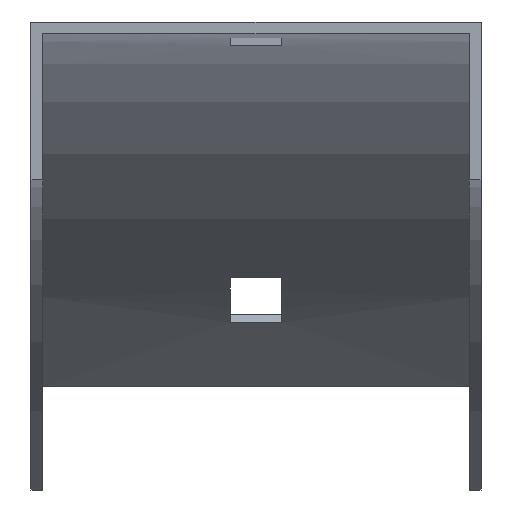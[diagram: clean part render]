
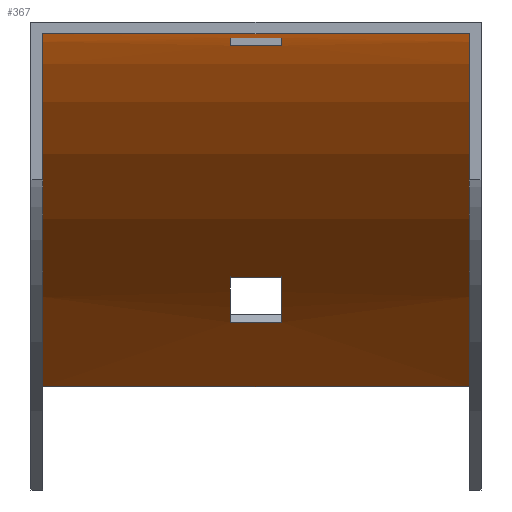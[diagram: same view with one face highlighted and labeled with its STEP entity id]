
A CAD part, top view. The second image highlights one B-rep face of the part: STEP entity #367.
In plain terms, the highlighted cylindrical face has radius 152 mm (diameter 304 mm), a partial arc.
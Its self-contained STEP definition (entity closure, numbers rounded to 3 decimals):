
#3 = DIRECTION ( 'NONE',  ( 1., 0., 0. ) ) ;
#4 = DIRECTION ( 'NONE',  ( 0., 0., 1. ) ) ;
#16 = DIRECTION ( 'NONE',  ( 1., 0., 0. ) ) ;
#39 = EDGE_LOOP ( 'NONE', ( #505, #255, #395, #483 ) ) ;
#40 = AXIS2_PLACEMENT_3D ( 'NONE', #518, #119, #142 ) ;
#42 = VERTEX_POINT ( 'NONE', #543 ) ;
#62 = EDGE_LOOP ( 'NONE', ( #166, #484, #337, #120 ) ) ;
#65 = EDGE_LOOP ( 'NONE', ( #403, #528, #312, #76 ) ) ;
#67 = CIRCLE ( 'NONE', #299, 152. ) ;
#76 = ORIENTED_EDGE ( 'NONE', *, *, #521, .T. ) ;
#82 = AXIS2_PLACEMENT_3D ( 'NONE', #242, #158, #149 ) ;
#86 = CARTESIAN_POINT ( 'NONE',  ( 28.5, -32.201, -91.6 ) ) ;
#92 = VECTOR ( 'NONE', #457, 1000. ) ;
#93 = LINE ( 'NONE', #329, #520 ) ;
#111 = VECTOR ( 'NONE', #3, 1000. ) ;
#119 = DIRECTION ( 'NONE',  ( 1., 0., 0. ) ) ;
#120 = ORIENTED_EDGE ( 'NONE', *, *, #293, .F. ) ;
#121 = LINE ( 'NONE', #86, #92 ) ;
#126 = EDGE_CURVE ( 'NONE', #463, #332, #121, .T. ) ;
#134 = CIRCLE ( 'NONE', #474, 152. ) ;
#137 = DIRECTION ( 'NONE',  ( 0., 0., 1. ) ) ;
#138 = VERTEX_POINT ( 'NONE', #178 ) ;
#140 = CARTESIAN_POINT ( 'NONE',  ( 27., -46.02, -107.48 ) ) ;
#142 = DIRECTION ( 'NONE',  ( 0., 0., -1. ) ) ;
#149 = DIRECTION ( 'NONE',  ( 0., 0., 1. ) ) ;
#152 = EDGE_CURVE ( 'NONE', #531, #169, #326, .T. ) ;
#158 = DIRECTION ( 'NONE',  ( -1., 0., 0. ) ) ;
#166 = ORIENTED_EDGE ( 'NONE', *, *, #507, .F. ) ;
#167 = LINE ( 'NONE', #602, #306 ) ;
#169 = VERTEX_POINT ( 'NONE', #170 ) ;
#170 = CARTESIAN_POINT ( 'NONE',  ( 3.25, -1.974, -12. ) ) ;
#178 = CARTESIAN_POINT ( 'NONE',  ( 27., -1.5, 0. ) ) ;
#180 = CARTESIAN_POINT ( 'NONE',  ( -27., -1.5, 0. ) ) ;
#183 = EDGE_CURVE ( 'NONE', #138, #263, #450, .T. ) ;
#192 = VECTOR ( 'NONE', #327, 1000. ) ;
#204 = EDGE_CURVE ( 'NONE', #592, #42, #167, .T. ) ;
#206 = CARTESIAN_POINT ( 'NONE',  ( -3.25, -32.201, -91.6 ) ) ;
#210 = CARTESIAN_POINT ( 'NONE',  ( 3.25, -2.958, -21. ) ) ;
#218 = DIRECTION ( 'NONE',  ( 0., 0., -1. ) ) ;
#224 = CIRCLE ( 'NONE', #40, 152. ) ;
#233 = EDGE_CURVE ( 'NONE', #456, #492, #423, .T. ) ;
#235 = CARTESIAN_POINT ( 'NONE',  ( 28.5, -2.958, -21. ) ) ;
#236 = CIRCLE ( 'NONE', #373, 152. ) ;
#242 = CARTESIAN_POINT ( 'NONE',  ( 28.5, -153.5, 0. ) ) ;
#255 = ORIENTED_EDGE ( 'NONE', *, *, #233, .F. ) ;
#260 = DIRECTION ( 'NONE',  ( -1., 0., 0. ) ) ;
#263 = VERTEX_POINT ( 'NONE', #180 ) ;
#277 = EDGE_CURVE ( 'NONE', #169, #434, #93, .T. ) ;
#284 = FACE_OUTER_BOUND ( 'NONE', #39, .T. ) ;
#292 = FACE_BOUND ( 'NONE', #65, .T. ) ;
#293 = EDGE_CURVE ( 'NONE', #301, #531, #374, .T. ) ;
#296 = CARTESIAN_POINT ( 'NONE',  ( 27., -46.02, -107.48 ) ) ;
#299 = AXIS2_PLACEMENT_3D ( 'NONE', #371, #260, #137 ) ;
#301 = VERTEX_POINT ( 'NONE', #567 ) ;
#306 = VECTOR ( 'NONE', #361, 1000. ) ;
#312 = ORIENTED_EDGE ( 'NONE', *, *, #126, .T. ) ;
#325 = FACE_BOUND ( 'NONE', #62, .T. ) ;
#326 = CIRCLE ( 'NONE', #404, 152. ) ;
#327 = DIRECTION ( 'NONE',  ( -1., 0., 0. ) ) ;
#329 = CARTESIAN_POINT ( 'NONE',  ( 28.5, -1.974, -12. ) ) ;
#332 = VERTEX_POINT ( 'NONE', #562 ) ;
#337 = ORIENTED_EDGE ( 'NONE', *, *, #152, .F. ) ;
#356 = DIRECTION ( 'NONE',  ( -1., 0., 0. ) ) ;
#361 = DIRECTION ( 'NONE',  ( -1., 0., 0. ) ) ;
#364 = CARTESIAN_POINT ( 'NONE',  ( -3.25, -153.5, 0. ) ) ;
#367 = ADVANCED_FACE ( 'NONE', ( #325, #284, #292 ), #486, .F. ) ;
#371 = CARTESIAN_POINT ( 'NONE',  ( 3.25, -153.5, 0. ) ) ;
#373 = AXIS2_PLACEMENT_3D ( 'NONE', #477, #583, #527 ) ;
#374 = LINE ( 'NONE', #235, #111 ) ;
#377 = CIRCLE ( 'NONE', #437, 152. ) ;
#378 = CARTESIAN_POINT ( 'NONE',  ( -3.25, -1.974, -12. ) ) ;
#395 = ORIENTED_EDGE ( 'NONE', *, *, #418, .T. ) ;
#399 = CARTESIAN_POINT ( 'NONE',  ( 27., -1.5, 0. ) ) ;
#402 = EDGE_CURVE ( 'NONE', #492, #263, #236, .T. ) ;
#403 = ORIENTED_EDGE ( 'NONE', *, *, #204, .T. ) ;
#404 = AXIS2_PLACEMENT_3D ( 'NONE', #412, #506, #218 ) ;
#412 = CARTESIAN_POINT ( 'NONE',  ( 3.25, -153.5, 0. ) ) ;
#415 = DIRECTION ( 'NONE',  ( -1., 0., 0. ) ) ;
#416 = CARTESIAN_POINT ( 'NONE',  ( -27., -46.02, -107.48 ) ) ;
#418 = EDGE_CURVE ( 'NONE', #456, #138, #134, .T. ) ;
#423 = LINE ( 'NONE', #140, #192 ) ;
#434 = VERTEX_POINT ( 'NONE', #378 ) ;
#437 = AXIS2_PLACEMENT_3D ( 'NONE', #364, #604, #4 ) ;
#450 = LINE ( 'NONE', #399, #485 ) ;
#456 = VERTEX_POINT ( 'NONE', #296 ) ;
#457 = DIRECTION ( 'NONE',  ( 1., 0., 0. ) ) ;
#463 = VERTEX_POINT ( 'NONE', #206 ) ;
#474 = AXIS2_PLACEMENT_3D ( 'NONE', #579, #16, #530 ) ;
#477 = CARTESIAN_POINT ( 'NONE',  ( -27., -153.5, 0. ) ) ;
#483 = ORIENTED_EDGE ( 'NONE', *, *, #183, .T. ) ;
#484 = ORIENTED_EDGE ( 'NONE', *, *, #277, .F. ) ;
#485 = VECTOR ( 'NONE', #356, 1000. ) ;
#486 = CYLINDRICAL_SURFACE ( 'NONE', #82, 152. ) ;
#492 = VERTEX_POINT ( 'NONE', #416 ) ;
#505 = ORIENTED_EDGE ( 'NONE', *, *, #402, .F. ) ;
#506 = DIRECTION ( 'NONE',  ( 1., 0., 0. ) ) ;
#507 = EDGE_CURVE ( 'NONE', #434, #301, #377, .T. ) ;
#518 = CARTESIAN_POINT ( 'NONE',  ( -3.25, -153.5, 0. ) ) ;
#520 = VECTOR ( 'NONE', #415, 1000. ) ;
#521 = EDGE_CURVE ( 'NONE', #332, #592, #67, .T. ) ;
#527 = DIRECTION ( 'NONE',  ( 0., 0., 1. ) ) ;
#528 = ORIENTED_EDGE ( 'NONE', *, *, #582, .T. ) ;
#530 = DIRECTION ( 'NONE',  ( 0., 0., 1. ) ) ;
#531 = VERTEX_POINT ( 'NONE', #210 ) ;
#543 = CARTESIAN_POINT ( 'NONE',  ( -3.25, -37.87, -98.659 ) ) ;
#562 = CARTESIAN_POINT ( 'NONE',  ( 3.25, -32.201, -91.6 ) ) ;
#567 = CARTESIAN_POINT ( 'NONE',  ( -3.25, -2.958, -21. ) ) ;
#579 = CARTESIAN_POINT ( 'NONE',  ( 27., -153.5, 0. ) ) ;
#582 = EDGE_CURVE ( 'NONE', #42, #463, #224, .T. ) ;
#583 = DIRECTION ( 'NONE',  ( 1., 0., 0. ) ) ;
#591 = CARTESIAN_POINT ( 'NONE',  ( 3.25, -37.87, -98.659 ) ) ;
#592 = VERTEX_POINT ( 'NONE', #591 ) ;
#602 = CARTESIAN_POINT ( 'NONE',  ( 28.5, -37.87, -98.659 ) ) ;
#604 = DIRECTION ( 'NONE',  ( -1., 0., 0. ) ) ;
